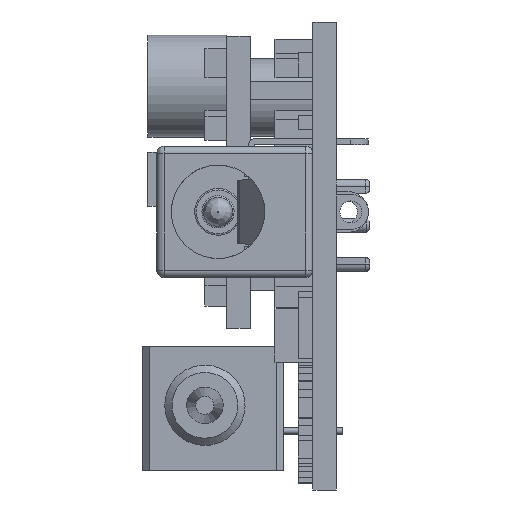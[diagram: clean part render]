
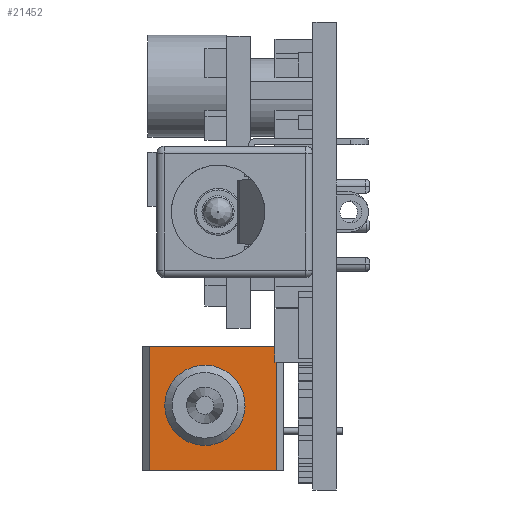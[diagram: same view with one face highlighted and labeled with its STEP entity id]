
A CAD part, left-side view. The second image highlights one B-rep face of the part: STEP entity #21452.
In plain terms, the highlighted planar face has unit normal (-1, 0, 0).
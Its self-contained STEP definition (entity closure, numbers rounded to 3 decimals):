
#72 = VECTOR ( 'NONE', #26255, 1000. ) ;
#2174 = EDGE_LOOP ( 'NONE', ( #20888 ) ) ;
#4178 = DIRECTION ( 'NONE',  ( 0., 0., -1. ) ) ;
#5701 = ORIENTED_EDGE ( 'NONE', *, *, #12740, .F. ) ;
#6165 = VECTOR ( 'NONE', #34452, 1000. ) ;
#7315 = EDGE_LOOP ( 'NONE', ( #32622, #23926, #37865, #5701 ) ) ;
#10154 = EDGE_CURVE ( 'NONE', #47505, #25390, #23124, .T. ) ;
#10451 = VERTEX_POINT ( 'NONE', #50411 ) ;
#12204 = CARTESIAN_POINT ( 'NONE',  ( -13.5, 8.5, 4.85 ) ) ;
#12740 = EDGE_CURVE ( 'NONE', #25390, #30677, #28683, .T. ) ;
#13690 = EDGE_CURVE ( 'NONE', #31817, #47505, #18365, .T. ) ;
#14266 = CARTESIAN_POINT ( 'NONE',  ( -13.5, 0., 4.35 ) ) ;
#16532 = VECTOR ( 'NONE', #26523, 1000. ) ;
#17269 = EDGE_CURVE ( 'NONE', #10451, #10451, #42385, .T. ) ;
#18365 = LINE ( 'NONE', #36595, #6165 ) ;
#20888 = ORIENTED_EDGE ( 'NONE', *, *, #17269, .F. ) ;
#21452 = ADVANCED_FACE ( 'NONE', ( #27551, #46685 ), #44906, .F. ) ;
#22392 = EDGE_CURVE ( 'NONE', #30677, #31817, #24271, .T. ) ;
#23124 = LINE ( 'NONE', #25838, #72 ) ;
#23926 = ORIENTED_EDGE ( 'NONE', *, *, #13690, .F. ) ;
#24271 = LINE ( 'NONE', #27887, #45970 ) ;
#25390 = VERTEX_POINT ( 'NONE', #35847 ) ;
#25838 = CARTESIAN_POINT ( 'NONE',  ( -13.5, 8.5, -4.35 ) ) ;
#26255 = DIRECTION ( 'NONE',  ( 0., 1., 0. ) ) ;
#26523 = DIRECTION ( 'NONE',  ( 0., 0., 1. ) ) ;
#26641 = CARTESIAN_POINT ( 'NONE',  ( -13.5, 8.5, 4.85 ) ) ;
#27551 = FACE_OUTER_BOUND ( 'NONE', #7315, .T. ) ;
#27887 = CARTESIAN_POINT ( 'NONE',  ( -13.5, 8.5, 4.35 ) ) ;
#28683 = LINE ( 'NONE', #26641, #16532 ) ;
#28699 = DIRECTION ( 'NONE',  ( 1., 0., 0. ) ) ;
#30677 = VERTEX_POINT ( 'NONE', #31897 ) ;
#30993 = AXIS2_PLACEMENT_3D ( 'NONE', #36201, #36132, #36125 ) ;
#31817 = VERTEX_POINT ( 'NONE', #14266 ) ;
#31897 = CARTESIAN_POINT ( 'NONE',  ( -13.5, 8.5, 4.35 ) ) ;
#32622 = ORIENTED_EDGE ( 'NONE', *, *, #10154, .F. ) ;
#34242 = AXIS2_PLACEMENT_3D ( 'NONE', #12204, #28699, #4178 ) ;
#34452 = DIRECTION ( 'NONE',  ( 0., 0., -1. ) ) ;
#35847 = CARTESIAN_POINT ( 'NONE',  ( -13.5, 8.5, -4.35 ) ) ;
#36078 = DIRECTION ( 'NONE',  ( 0., -1., 0. ) ) ;
#36125 = DIRECTION ( 'NONE',  ( 0., 0., -1. ) ) ;
#36132 = DIRECTION ( 'NONE',  ( -1., 0., 0. ) ) ;
#36201 = CARTESIAN_POINT ( 'NONE',  ( -13.5, 4.05, 0.55 ) ) ;
#36595 = CARTESIAN_POINT ( 'NONE',  ( -13.5, 0., 0. ) ) ;
#37865 = ORIENTED_EDGE ( 'NONE', *, *, #22392, .F. ) ;
#42385 = CIRCLE ( 'NONE', #30993, 2.55 ) ;
#44906 = PLANE ( 'NONE',  #34242 ) ;
#45970 = VECTOR ( 'NONE', #36078, 1000. ) ;
#46685 = FACE_BOUND ( 'NONE', #2174, .T. ) ;
#47505 = VERTEX_POINT ( 'NONE', #51203 ) ;
#50411 = CARTESIAN_POINT ( 'NONE',  ( -13.5, 4.05, -2. ) ) ;
#51203 = CARTESIAN_POINT ( 'NONE',  ( -13.5, 0., -4.35 ) ) ;
